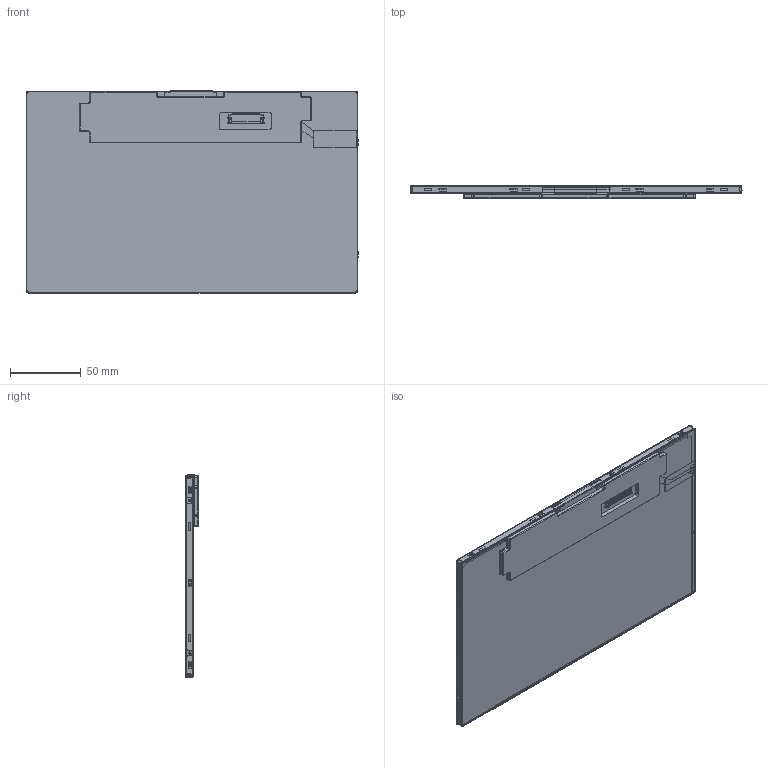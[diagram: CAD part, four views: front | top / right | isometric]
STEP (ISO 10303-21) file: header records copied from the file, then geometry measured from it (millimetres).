
FILE_DESCRIPTION (( 'STEP AP203' ), '1' );
FILE_NAME ('NHD-10.1-1024600BF-LSXP_Rev2A.STEP', '2022-07-18T16:10:45', ( '' ), ( '' ), 'SwSTEP 2.0', 'SolidWorks 2019', '' );
FILE_SCHEMA (( 'CONFIG_CONTROL_DESIGN' ));
Products named in the file (1): NHD-10.1-1024600BF-LSXP_Rev2A
Bounding box: 235.02 x 8.94 x 143.09 mm (x, y, z)
Volume: 143612.6 mm3; surface area: 514435.3 mm2
Topology: 18 solids, 18 shells, 2817 faces, 8487 edges, 5563 vertices
Faces by surface type: plane 2268, cylinder 485, bspline 63, torus 1
Entity records: 95478 total; most frequent: CARTESIAN_POINT 18503, ORIENTED_EDGE 16938, DIRECTION 14868, EDGE_CURVE 8469, LINE 7416, VECTOR 7416, VERTEX_POINT 5563, AXIS2_PLACEMENT_3D 3726
